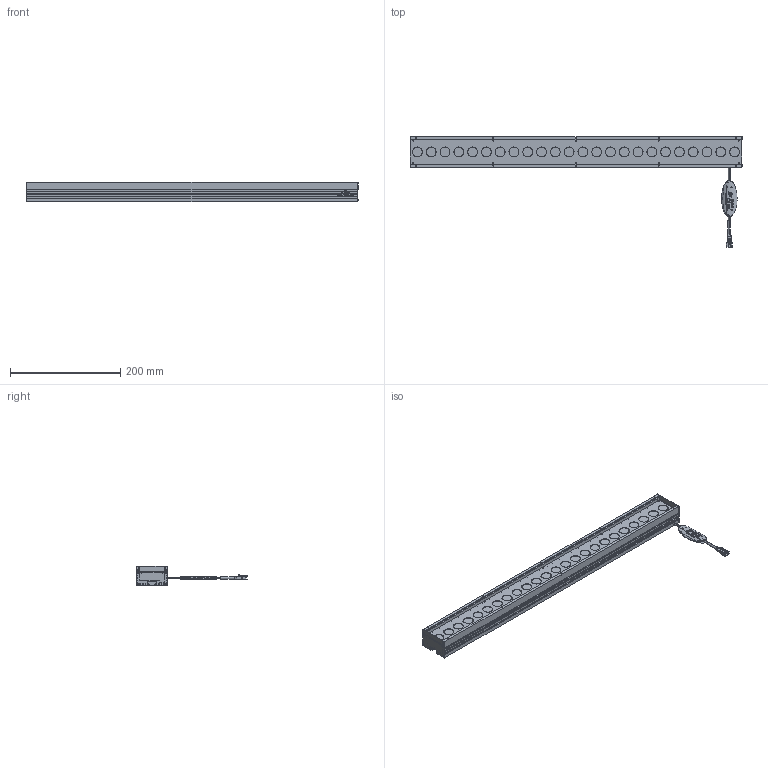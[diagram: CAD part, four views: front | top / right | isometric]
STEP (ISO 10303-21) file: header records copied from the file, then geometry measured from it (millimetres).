
FILE_DESCRIPTION(('STEP AP214'),'1');
FILE_NAME('VBAL-60030_DRAWING_3D.step','2023-10-03T08:22:31',(' '),(' '),'Spatial InterOp 3D',' ',' ');
FILE_SCHEMA(('AUTOMOTIVE_DESIGN { 1 0 10303 214 1 1 1 1 }'));
Length unit declared in the file: millimetre
Products named in the file (12): OSOLRB2030M; 3P; CABEL TAG (VS); HLB308DWDWA03A_SIDE PANEL1; HLB308DWDWA04A_SIDE PANEL2; HLB548DWM04_BASE; HLB548DWM09_F-PANEL; INSULOK; SFB-4A6; MXB0115; MXB4508
Assembly tree (59 placements, depth 2):
  (unnamed)
    OSOLRB2030M  x24
    3P
    CABEL TAG (VS)
    HLB308DWDWA03A_SIDE PANEL1  x2
    HLB308DWDWA04A_SIDE PANEL2  x2
    HLB548DWM04_BASE
    HLB548DWM09_F-PANEL
    INSULOK
    SFB-4A6  x4
    MXB0115  x10
    MXB4508  x12
Bounding box: 602 x 200.2 x 36 mm (x, y, z)
Volume: 451284.4 mm3; surface area: 298461.5 mm2
Topology: 60 solids, 85 shells, 1617 faces, 4216 edges, 2779 vertices
Faces by surface type: plane 756, cylinder 575, cone 164, bspline 78, torus 44
Entity records: 34341 total; most frequent: CARTESIAN_POINT 7040, ORIENTED_EDGE 4500, DIRECTION 4133, EDGE_CURVE 2250, VERTEX_POINT 1593, AXIS2_PLACEMENT_3D 1426, LINE 1281, VECTOR 1281
